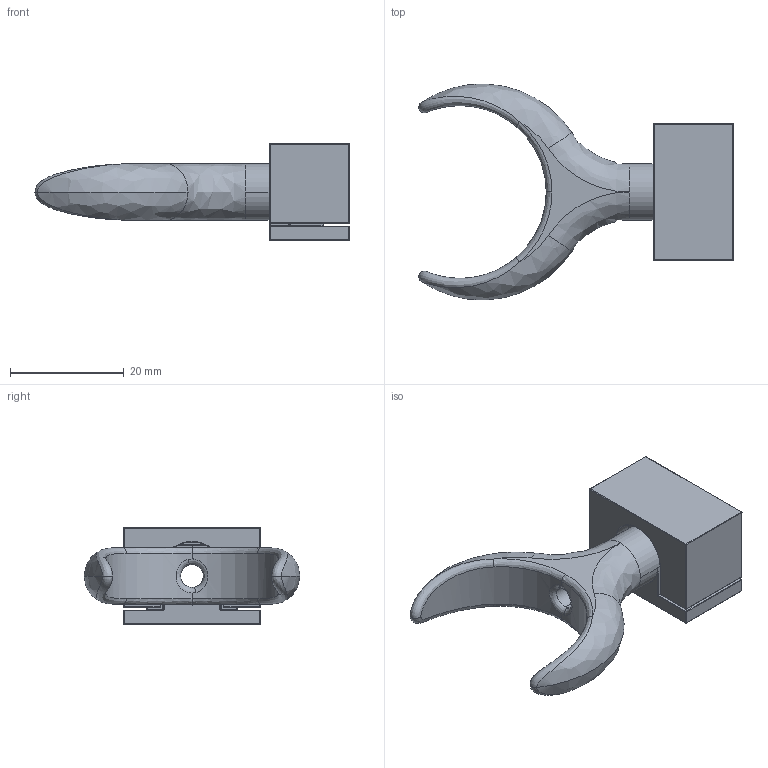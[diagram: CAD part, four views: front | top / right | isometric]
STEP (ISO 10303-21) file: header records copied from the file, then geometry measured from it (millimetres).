
FILE_DESCRIPTION (( 'STEP AP214' ), '1' );
FILE_NAME ('ACSTAFFA001XXXX.STEP', '2023-08-28T15:34:56', ( '' ), ( '' ), 'SwSTEP 2.0', 'SolidWorks 2023', '' );
FILE_SCHEMA (( 'AUTOMOTIVE_DESIGN' ));
Length unit declared in the file: millimetre
Products named in the file (1): ACSTAFFA001XXXX
Bounding box: 55.28 x 37.97 x 17 mm (x, y, z)
Volume: 8943 mm3; surface area: 5817.1 mm2
Topology: 2 solids, 2 shells, 185 faces, 433 edges, 211 vertices
Faces by surface type: bspline 80, cylinder 74, plane 29, cone 2
Entity records: 7370 total; most frequent: CARTESIAN_POINT 3761, ORIENTED_EDGE 786, DIRECTION 714, EDGE_CURVE 393, AXIS2_PLACEMENT_3D 285, VERTEX_POINT 211, EDGE_LOOP 188, ADVANCED_FACE 185
